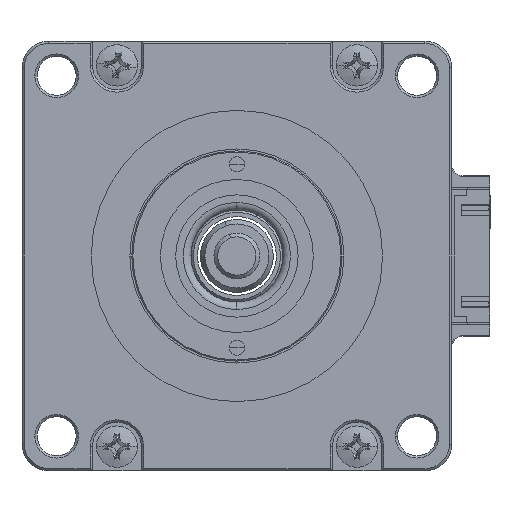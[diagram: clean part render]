
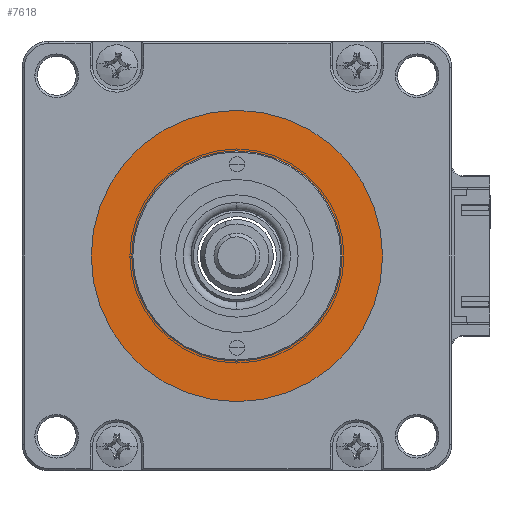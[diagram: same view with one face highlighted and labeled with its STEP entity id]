
A CAD part, left-side view. The second image highlights one B-rep face of the part: STEP entity #7618.
In plain terms, the highlighted planar face has unit normal (-1, 0, 0).
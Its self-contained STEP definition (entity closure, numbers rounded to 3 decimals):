
#874 = EDGE_CURVE ( 'NONE', #1971, #7056, #3728, .T. ) ;
#878 = AXIS2_PLACEMENT_3D ( 'NONE', #4958, #11758, #5948 ) ;
#923 = CARTESIAN_POINT ( 'NONE',  ( -49.623, 29.072, 72.9 ) ) ;
#1111 = EDGE_LOOP ( 'NONE', ( #2005, #1296 ) ) ;
#1296 = ORIENTED_EDGE ( 'NONE', *, *, #2385, .F. ) ;
#1971 = VERTEX_POINT ( 'NONE', #3393 ) ;
#2005 = ORIENTED_EDGE ( 'NONE', *, *, #8298, .F. ) ;
#2385 = EDGE_CURVE ( 'NONE', #7010, #9666, #7842, .T. ) ;
#3393 = CARTESIAN_POINT ( 'NONE',  ( -49.623, 23.522, 48.3 ) ) ;
#3601 = CARTESIAN_POINT ( 'NONE',  ( -49.623, 4.472, 48.3 ) ) ;
#3728 = CIRCLE ( 'NONE', #5602, 19.05 ) ;
#4177 = AXIS2_PLACEMENT_3D ( 'NONE', #923, #4891, #11701 ) ;
#4328 = AXIS2_PLACEMENT_3D ( 'NONE', #11003, #5184, #11982 ) ;
#4569 = DIRECTION ( 'NONE',  ( 0., -1., 0. ) ) ;
#4874 = CIRCLE ( 'NONE', #4328, 19.05 ) ;
#4891 = DIRECTION ( 'NONE',  ( -1., 0., 0. ) ) ;
#4950 = CARTESIAN_POINT ( 'NONE',  ( -49.623, -14.578, 48.3 ) ) ;
#4958 = CARTESIAN_POINT ( 'NONE',  ( -49.623, 4.472, 48.3 ) ) ;
#5112 = FACE_BOUND ( 'NONE', #1111, .T. ) ;
#5184 = DIRECTION ( 'NONE',  ( -1., 0., 0. ) ) ;
#5602 = AXIS2_PLACEMENT_3D ( 'NONE', #11587, #5770, #12552 ) ;
#5770 = DIRECTION ( 'NONE',  ( -1., 0., 0. ) ) ;
#5793 = AXIS2_PLACEMENT_3D ( 'NONE', #3601, #10398, #4569 ) ;
#5948 = DIRECTION ( 'NONE',  ( 0., -1., 0. ) ) ;
#7010 = VERTEX_POINT ( 'NONE', #10429 ) ;
#7056 = VERTEX_POINT ( 'NONE', #4950 ) ;
#7618 = ADVANCED_FACE ( 'NONE', ( #5112, #7695 ), #10721, .T. ) ;
#7695 = FACE_OUTER_BOUND ( 'NONE', #8005, .T. ) ;
#7842 = CIRCLE ( 'NONE', #878, 13.75 ) ;
#8005 = EDGE_LOOP ( 'NONE', ( #8132, #9920 ) ) ;
#8078 = EDGE_CURVE ( 'NONE', #7056, #1971, #4874, .T. ) ;
#8132 = ORIENTED_EDGE ( 'NONE', *, *, #8078, .T. ) ;
#8218 = CIRCLE ( 'NONE', #5793, 13.75 ) ;
#8298 = EDGE_CURVE ( 'NONE', #9666, #7010, #8218, .T. ) ;
#8840 = CARTESIAN_POINT ( 'NONE',  ( -49.623, 18.222, 48.3 ) ) ;
#9666 = VERTEX_POINT ( 'NONE', #8840 ) ;
#9920 = ORIENTED_EDGE ( 'NONE', *, *, #874, .T. ) ;
#10398 = DIRECTION ( 'NONE',  ( -1., 0., 0. ) ) ;
#10429 = CARTESIAN_POINT ( 'NONE',  ( -49.623, -9.278, 48.3 ) ) ;
#10721 = PLANE ( 'NONE',  #4177 ) ;
#11003 = CARTESIAN_POINT ( 'NONE',  ( -49.623, 4.472, 48.3 ) ) ;
#11587 = CARTESIAN_POINT ( 'NONE',  ( -49.623, 4.472, 48.3 ) ) ;
#11701 = DIRECTION ( 'NONE',  ( 0., -1., 0. ) ) ;
#11758 = DIRECTION ( 'NONE',  ( -1., 0., 0. ) ) ;
#11982 = DIRECTION ( 'NONE',  ( 0., -1., 0. ) ) ;
#12552 = DIRECTION ( 'NONE',  ( 0., -1., 0. ) ) ;
